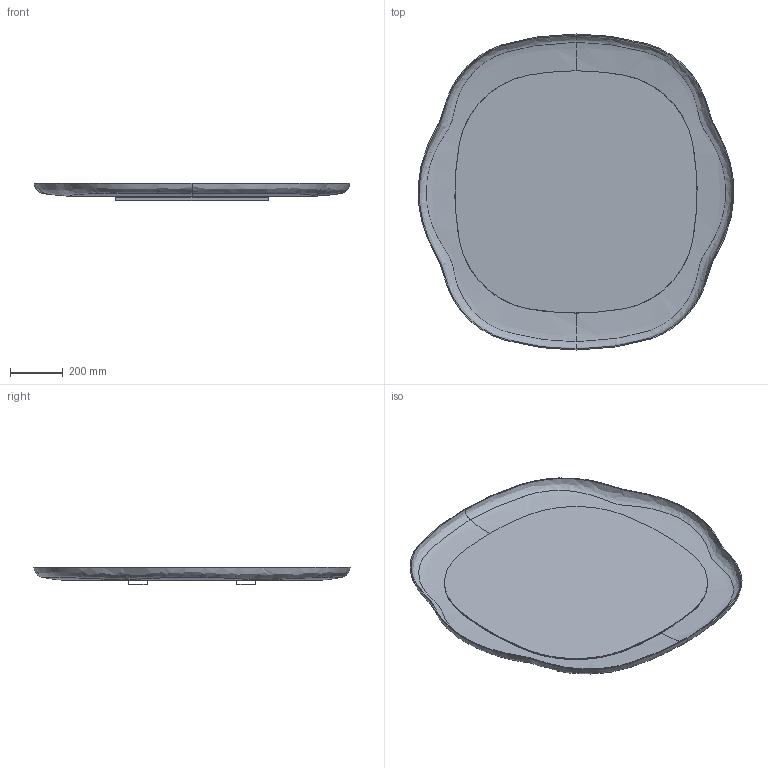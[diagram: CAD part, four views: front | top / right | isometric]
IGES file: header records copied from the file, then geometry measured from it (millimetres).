
Start section: SolidWorks IGES file using analytic representation for surfaces
Global section: file name: Y:\eforma\TECNICO\SOLIDWORKS\E-FORMA\4-SPECCHI\MATISSE\08 modelli 3D web\MAT01_Matisse_120x120.IGS; native system: SolidWorks 2022; preprocessor: SolidWorks 2022; author: eforma.tech; date: 240802.110528; units: millimetre
Bounding box: 1198.59 x 1200 x 66.5 mm (x, y, z)
Volume: 8402650.4 mm3; surface area: 4688170.1 mm2
Topology: 3 solids, 3 shells, 161 faces, 385 edges, 223 vertices
Faces by surface type: plane 99, revolution 54, bspline 8
